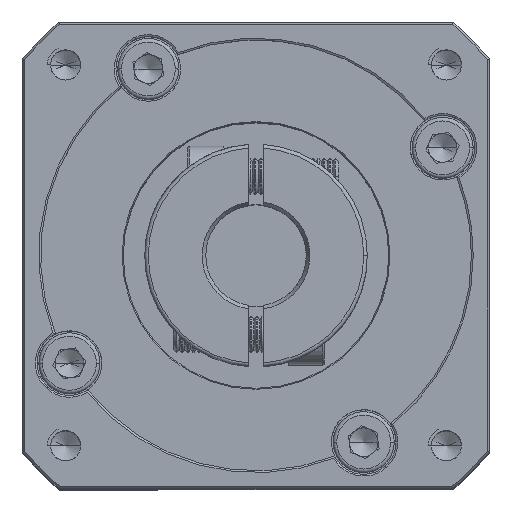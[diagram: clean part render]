
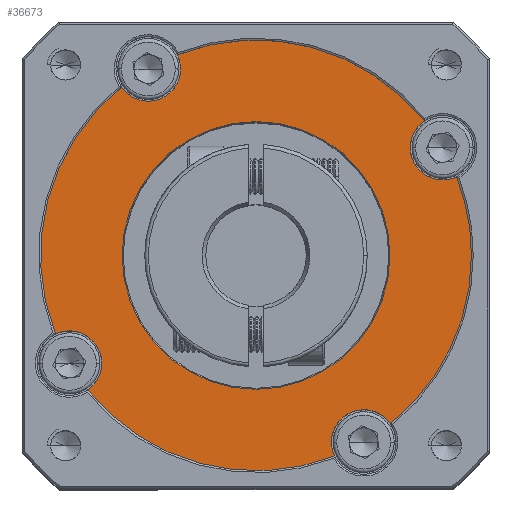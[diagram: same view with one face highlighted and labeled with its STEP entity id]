
A CAD part, top view. The second image highlights one B-rep face of the part: STEP entity #36673.
In plain terms, the highlighted planar face has unit normal (0, 0, 1).
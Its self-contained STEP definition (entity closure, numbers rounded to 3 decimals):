
#221 = ORIENTED_EDGE ( 'NONE', *, *, #70228, .T. ) ;
#280 = DIRECTION ( 'NONE',  ( 0., 0., 1. ) ) ;
#1466 = CARTESIAN_POINT ( 'NONE',  ( -42.706, 11.954, 31.124 ) ) ;
#2542 = CARTESIAN_POINT ( 'NONE',  ( -72.295, 39.886, 31.124 ) ) ;
#2827 = DIRECTION ( 'NONE',  ( 1., 0., 0. ) ) ;
#2854 = CARTESIAN_POINT ( 'NONE',  ( -38.651, 13.905, 31.124 ) ) ;
#2951 = ORIENTED_EDGE ( 'NONE', *, *, #79604, .F. ) ;
#3717 = CARTESIAN_POINT ( 'NONE',  ( -35.006, 39.886, 31.124 ) ) ;
#6359 = DIRECTION ( 'NONE',  ( 1., 0., 0. ) ) ;
#7595 = CARTESIAN_POINT ( 'NONE',  ( -27.67, 54.886, 31.124 ) ) ;
#7834 = DIRECTION ( 'NONE',  ( 0., 0., 1. ) ) ;
#8876 = EDGE_CURVE ( 'NONE', #40227, #87582, #95493, .T. ) ;
#9484 = VERTEX_POINT ( 'NONE', #15636 ) ;
#10304 = CARTESIAN_POINT ( 'NONE',  ( -81.583, 28.941, 31.124 ) ) ;
#10627 = EDGE_CURVE ( 'NONE', #20136, #84045, #101217, .T. ) ;
#10986 = DIRECTION ( 'NONE',  ( 1., 0., 0. ) ) ;
#12224 = AXIS2_PLACEMENT_3D ( 'NONE', #62196, #14284, #70277 ) ;
#12482 = CARTESIAN_POINT ( 'NONE',  ( -64.596, 67.818, 31.124 ) ) ;
#13470 = EDGE_CURVE ( 'NONE', #66565, #44119, #85271, .T. ) ;
#13749 = CARTESIAN_POINT ( 'NONE',  ( -23.651, 39.886, 31.124 ) ) ;
#14072 = CIRCLE ( 'NONE', #53052, 4.5 ) ;
#14284 = DIRECTION ( 'NONE',  ( 0., 0., 1. ) ) ;
#14448 = DIRECTION ( 'NONE',  ( 0., 0., 1. ) ) ;
#14478 = CARTESIAN_POINT ( 'NONE',  ( -43.151, 13.905, 31.124 ) ) ;
#15067 = ORIENTED_EDGE ( 'NONE', *, *, #81619, .T. ) ;
#15636 = CARTESIAN_POINT ( 'NONE',  ( -64.151, 65.867, 31.124 ) ) ;
#15649 = DIRECTION ( 'NONE',  ( 1., 0., 0. ) ) ;
#15659 = DIRECTION ( 'NONE',  ( 0., 0., 1. ) ) ;
#17187 = AXIS2_PLACEMENT_3D ( 'NONE', #7595, #63585, #15649 ) ;
#17221 = CARTESIAN_POINT ( 'NONE',  ( -75.131, 24.886, 31.124 ) ) ;
#19201 = CARTESIAN_POINT ( 'NONE',  ( -32.17, 54.886, 31.124 ) ) ;
#19627 = CARTESIAN_POINT ( 'NONE',  ( -68.651, 65.867, 31.124 ) ) ;
#20136 = VERTEX_POINT ( 'NONE', #19201 ) ;
#21436 = CARTESIAN_POINT ( 'NONE',  ( -79.631, 24.886, 31.124 ) ) ;
#22533 = VERTEX_POINT ( 'NONE', #13749 ) ;
#22640 = CARTESIAN_POINT ( 'NONE',  ( -30.206, 58.603, 31.124 ) ) ;
#24257 = AXIS2_PLACEMENT_3D ( 'NONE', #102271, #54313, #6359 ) ;
#24741 = CIRCLE ( 'NONE', #71123, 4.5 ) ;
#26090 = ORIENTED_EDGE ( 'NONE', *, *, #10627, .F. ) ;
#27629 = CIRCLE ( 'NONE', #81475, 18.644 ) ;
#27689 = DIRECTION ( 'NONE',  ( 1., 0., 0. ) ) ;
#28094 = CIRCLE ( 'NONE', #32226, 18.644 ) ;
#29476 = CARTESIAN_POINT ( 'NONE',  ( -53.651, 39.886, 31.124 ) ) ;
#29561 = DIRECTION ( 'NONE',  ( 1., 0., 0. ) ) ;
#29928 = VERTEX_POINT ( 'NONE', #14478 ) ;
#30225 = CARTESIAN_POINT ( 'NONE',  ( -25.719, 50.831, 31.124 ) ) ;
#30256 = PLANE ( 'NONE',  #102206 ) ;
#30746 = ORIENTED_EDGE ( 'NONE', *, *, #68434, .F. ) ;
#31643 = VERTEX_POINT ( 'NONE', #3717 ) ;
#32226 = AXIS2_PLACEMENT_3D ( 'NONE', #29476, #85465, #37487 ) ;
#36216 = VERTEX_POINT ( 'NONE', #22640 ) ;
#36673 = ADVANCED_FACE ( 'NONE', ( #88098, #61683 ), #30256, .T. ) ;
#36817 = CIRCLE ( 'NONE', #70644, 30. ) ;
#37172 = CARTESIAN_POINT ( 'NONE',  ( -38.651, 13.905, 31.124 ) ) ;
#37281 = EDGE_CURVE ( 'NONE', #9484, #102615, #38954, .T. ) ;
#37405 = CARTESIAN_POINT ( 'NONE',  ( -79.631, 24.886, 31.124 ) ) ;
#37487 = DIRECTION ( 'NONE',  ( 1., 0., 0. ) ) ;
#37609 = DIRECTION ( 'NONE',  ( 1., 0., 0. ) ) ;
#38923 = CIRCLE ( 'NONE', #81560, 4.5 ) ;
#38954 = CIRCLE ( 'NONE', #101574, 4.5 ) ;
#40059 = EDGE_CURVE ( 'NONE', #49021, #29928, #24741, .T. ) ;
#40227 = VERTEX_POINT ( 'NONE', #85871 ) ;
#42855 = CARTESIAN_POINT ( 'NONE',  ( -72.368, 63.331, 31.124 ) ) ;
#43738 = ORIENTED_EDGE ( 'NONE', *, *, #13470, .T. ) ;
#44119 = VERTEX_POINT ( 'NONE', #10304 ) ;
#45025 = DIRECTION ( 'NONE',  ( 0., 0., -1. ) ) ;
#45182 = DIRECTION ( 'NONE',  ( 1., 0., 0. ) ) ;
#45411 = DIRECTION ( 'NONE',  ( 1., 0., 0. ) ) ;
#48250 = CARTESIAN_POINT ( 'NONE',  ( -68.651, 65.867, 31.124 ) ) ;
#49021 = VERTEX_POINT ( 'NONE', #86634 ) ;
#49821 = AXIS2_PLACEMENT_3D ( 'NONE', #78840, #63058, #37609 ) ;
#50363 = AXIS2_PLACEMENT_3D ( 'NONE', #37172, #93205, #45182 ) ;
#50816 = DIRECTION ( 'NONE',  ( 0., 0., 1. ) ) ;
#51882 = ORIENTED_EDGE ( 'NONE', *, *, #40059, .F. ) ;
#52160 = EDGE_CURVE ( 'NONE', #29928, #87582, #77120, .T. ) ;
#53052 = AXIS2_PLACEMENT_3D ( 'NONE', #19627, #75611, #27689 ) ;
#54252 = EDGE_CURVE ( 'NONE', #40227, #95596, #38923, .T. ) ;
#54313 = DIRECTION ( 'NONE',  ( 0., 0., 1. ) ) ;
#55762 = CARTESIAN_POINT ( 'NONE',  ( -53.651, 39.886, 31.124 ) ) ;
#56277 = DIRECTION ( 'NONE',  ( 1., 0., 0. ) ) ;
#57590 = AXIS2_PLACEMENT_3D ( 'NONE', #98773, #50816, #2827 ) ;
#58748 = ORIENTED_EDGE ( 'NONE', *, *, #52160, .F. ) ;
#58855 = DIRECTION ( 'NONE',  ( 0., 0., 1. ) ) ;
#58937 = EDGE_CURVE ( 'NONE', #49021, #22533, #36817, .T. ) ;
#58971 = CIRCLE ( 'NONE', #57590, 4.5 ) ;
#59398 = CIRCLE ( 'NONE', #12224, 30. ) ;
#61683 = FACE_OUTER_BOUND ( 'NONE', #75617, .T. ) ;
#62092 = ORIENTED_EDGE ( 'NONE', *, *, #54252, .F. ) ;
#62146 = CIRCLE ( 'NONE', #81370, 30. ) ;
#62196 = CARTESIAN_POINT ( 'NONE',  ( -53.651, 39.886, 31.124 ) ) ;
#62355 = CARTESIAN_POINT ( 'NONE',  ( -53.651, 39.886, 31.124 ) ) ;
#63058 = DIRECTION ( 'NONE',  ( 0., 0., 1. ) ) ;
#63585 = DIRECTION ( 'NONE',  ( 0., 0., 1. ) ) ;
#63597 = CARTESIAN_POINT ( 'NONE',  ( -53.651, 39.886, 31.124 ) ) ;
#63803 = DIRECTION ( 'NONE',  ( 1., 0., 0. ) ) ;
#64137 = ORIENTED_EDGE ( 'NONE', *, *, #91750, .T. ) ;
#66512 = VERTEX_POINT ( 'NONE', #2542 ) ;
#66565 = VERTEX_POINT ( 'NONE', #42855 ) ;
#68434 = EDGE_CURVE ( 'NONE', #66565, #9484, #14072, .T. ) ;
#70228 = EDGE_CURVE ( 'NONE', #31643, #66512, #27629, .T. ) ;
#70277 = DIRECTION ( 'NONE',  ( 1., 0., 0. ) ) ;
#70454 = DIRECTION ( 'NONE',  ( 1., 0., 0. ) ) ;
#70644 = AXIS2_PLACEMENT_3D ( 'NONE', #63597, #15659, #71683 ) ;
#71123 = AXIS2_PLACEMENT_3D ( 'NONE', #2854, #58855, #10986 ) ;
#71683 = DIRECTION ( 'NONE',  ( 1., 0., 0. ) ) ;
#75611 = DIRECTION ( 'NONE',  ( 0., 0., 1. ) ) ;
#75617 = EDGE_LOOP ( 'NONE', ( #62092, #97564, #58748, #51882, #100542, #85250, #26090, #2951, #15067, #84011, #30746, #43738, #96890 ) ) ;
#76803 = EDGE_LOOP ( 'NONE', ( #221, #64137 ) ) ;
#77120 = CIRCLE ( 'NONE', #50363, 4.5 ) ;
#77417 = DIRECTION ( 'NONE',  ( 0., 0., 1. ) ) ;
#78840 = CARTESIAN_POINT ( 'NONE',  ( -53.651, 39.886, 31.124 ) ) ;
#79604 = EDGE_CURVE ( 'NONE', #36216, #20136, #58971, .T. ) ;
#81370 = AXIS2_PLACEMENT_3D ( 'NONE', #55762, #7834, #63803 ) ;
#81475 = AXIS2_PLACEMENT_3D ( 'NONE', #93032, #45025, #100976 ) ;
#81560 = AXIS2_PLACEMENT_3D ( 'NONE', #37405, #93435, #45411 ) ;
#81619 = EDGE_CURVE ( 'NONE', #36216, #102615, #59398, .T. ) ;
#82319 = EDGE_CURVE ( 'NONE', #22533, #84045, #62146, .T. ) ;
#84011 = ORIENTED_EDGE ( 'NONE', *, *, #37281, .F. ) ;
#84045 = VERTEX_POINT ( 'NONE', #30225 ) ;
#85250 = ORIENTED_EDGE ( 'NONE', *, *, #82319, .T. ) ;
#85271 = CIRCLE ( 'NONE', #24257, 30. ) ;
#85465 = DIRECTION ( 'NONE',  ( 0., 0., -1. ) ) ;
#85871 = CARTESIAN_POINT ( 'NONE',  ( -77.095, 21.169, 31.124 ) ) ;
#86634 = CARTESIAN_POINT ( 'NONE',  ( -34.933, 16.441, 31.124 ) ) ;
#87582 = VERTEX_POINT ( 'NONE', #1466 ) ;
#88098 = FACE_BOUND ( 'NONE', #76803, .T. ) ;
#89575 = EDGE_CURVE ( 'NONE', #95596, #44119, #95390, .T. ) ;
#90307 = AXIS2_PLACEMENT_3D ( 'NONE', #21436, #77417, #29561 ) ;
#91750 = EDGE_CURVE ( 'NONE', #66512, #31643, #28094, .T. ) ;
#93032 = CARTESIAN_POINT ( 'NONE',  ( -53.651, 39.886, 31.124 ) ) ;
#93205 = DIRECTION ( 'NONE',  ( 0., 0., 1. ) ) ;
#93435 = DIRECTION ( 'NONE',  ( 0., 0., 1. ) ) ;
#95390 = CIRCLE ( 'NONE', #90307, 4.5 ) ;
#95493 = CIRCLE ( 'NONE', #49821, 30. ) ;
#95596 = VERTEX_POINT ( 'NONE', #17221 ) ;
#96890 = ORIENTED_EDGE ( 'NONE', *, *, #89575, .F. ) ;
#97564 = ORIENTED_EDGE ( 'NONE', *, *, #8876, .T. ) ;
#98773 = CARTESIAN_POINT ( 'NONE',  ( -27.67, 54.886, 31.124 ) ) ;
#100542 = ORIENTED_EDGE ( 'NONE', *, *, #58937, .T. ) ;
#100976 = DIRECTION ( 'NONE',  ( 1., 0., 0. ) ) ;
#101217 = CIRCLE ( 'NONE', #17187, 4.5 ) ;
#101574 = AXIS2_PLACEMENT_3D ( 'NONE', #48250, #280, #56277 ) ;
#102206 = AXIS2_PLACEMENT_3D ( 'NONE', #62355, #14448, #70454 ) ;
#102271 = CARTESIAN_POINT ( 'NONE',  ( -53.651, 39.886, 31.124 ) ) ;
#102615 = VERTEX_POINT ( 'NONE', #12482 ) ;
